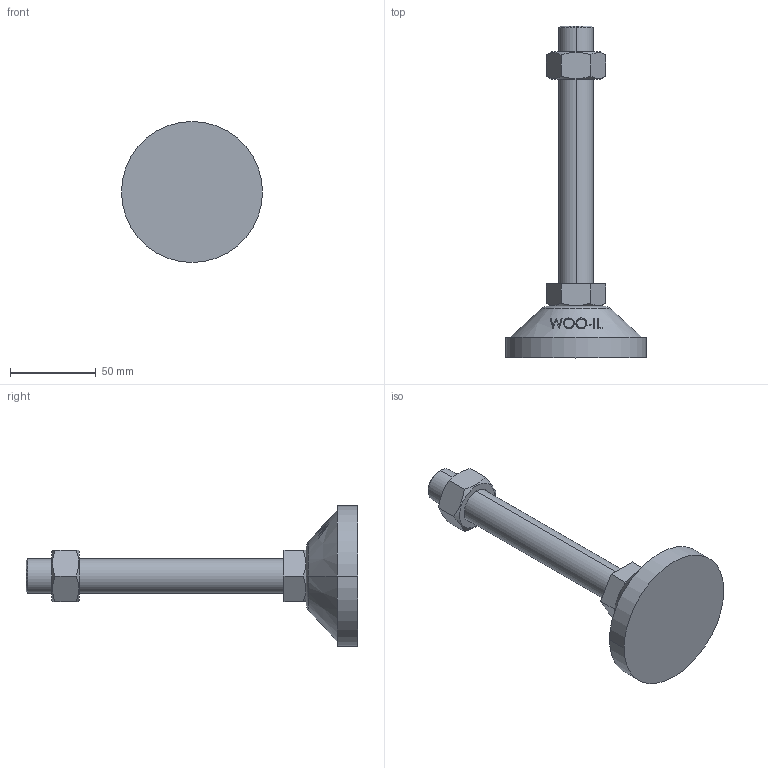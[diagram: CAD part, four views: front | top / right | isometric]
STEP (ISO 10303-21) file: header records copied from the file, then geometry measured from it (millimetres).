
FILE_DESCRIPTION (( 'STEP AP214' ), '1' );
FILE_NAME ('RL82-M20-150.step', '2021-01-06T08:18:40', ( '' ), ( '' ), 'SwSTEP 2.0', 'SolidWorks 2019', '' );
FILE_SCHEMA (( 'AUTOMOTIVE_DESIGN' ));
Length unit declared in the file: millimetre
Products named in the file (1): RL82-M20-150
Bounding box: 82 x 193 x 82 mm (x, y, z)
Volume: 175336 mm3; surface area: 30570.9 mm2
Topology: 3 solids, 3 shells, 93 faces, 221 edges, 144 vertices
Faces by surface type: plane 47, cone 22, bspline 16, cylinder 6, torus 2
Entity records: 4267 total; most frequent: CARTESIAN_POINT 2215, ORIENTED_EDGE 442, DIRECTION 349, EDGE_CURVE 221, VERTEX_POINT 144, AXIS2_PLACEMENT_3D 134, EDGE_LOOP 105, ADVANCED_FACE 93
